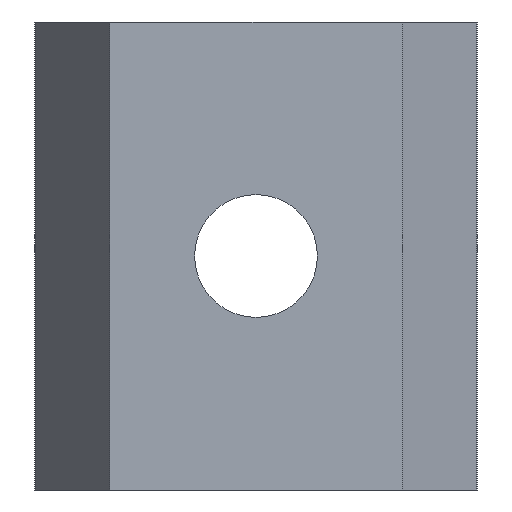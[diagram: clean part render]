
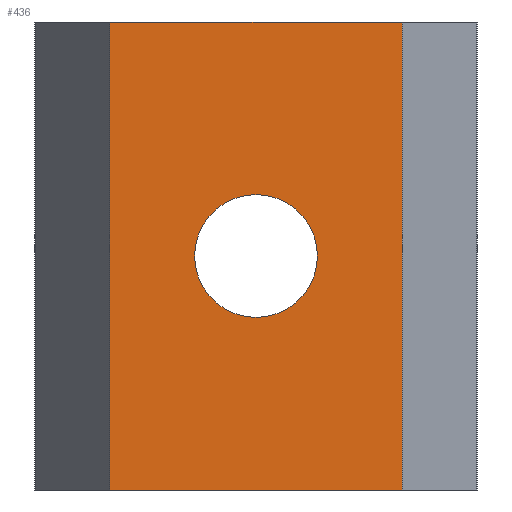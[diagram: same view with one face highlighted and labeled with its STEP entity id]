
A CAD part, front view. The second image highlights one B-rep face of the part: STEP entity #436.
In plain terms, the highlighted planar face has unit normal (0, -1, 0).
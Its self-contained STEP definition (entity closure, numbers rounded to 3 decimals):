
#14 = AXIS2_PLACEMENT_3D ( 'NONE', #452, #422, #614 ) ;
#19 = LINE ( 'NONE', #119, #266 ) ;
#20 = VECTOR ( 'NONE', #309, 1000. ) ;
#23 = AXIS2_PLACEMENT_3D ( 'NONE', #141, #138, #133 ) ;
#38 = LINE ( 'NONE', #176, #264 ) ;
#40 = VECTOR ( 'NONE', #303, 1000. ) ;
#48 = LINE ( 'NONE', #162, #20 ) ;
#78 = DIRECTION ( 'NONE',  ( 1., 0., 0. ) ) ;
#80 = CARTESIAN_POINT ( 'NONE',  ( -5., 0., 8. ) ) ;
#82 = DIRECTION ( 'NONE',  ( 0., 0., -1. ) ) ;
#88 = CARTESIAN_POINT ( 'NONE',  ( -5., 0., -8. ) ) ;
#107 = CARTESIAN_POINT ( 'NONE',  ( 0., 0., -2.1 ) ) ;
#119 = CARTESIAN_POINT ( 'NONE',  ( 5., 0., 8. ) ) ;
#128 = EDGE_CURVE ( 'NONE', #330, #346, #268, .T. ) ;
#130 = CARTESIAN_POINT ( 'NONE',  ( -5., 0., 8. ) ) ;
#131 = EDGE_CURVE ( 'NONE', #370, #374, #272, .T. ) ;
#133 = DIRECTION ( 'NONE',  ( 0., 0., 1. ) ) ;
#138 = DIRECTION ( 'NONE',  ( 0., 1., 0. ) ) ;
#140 = EDGE_CURVE ( 'NONE', #346, #412, #48, .T. ) ;
#141 = CARTESIAN_POINT ( 'NONE',  ( 0., 0., 0. ) ) ;
#142 = EDGE_CURVE ( 'NONE', #326, #412, #19, .T. ) ;
#149 = EDGE_CURVE ( 'NONE', #330, #326, #38, .T. ) ;
#151 = CARTESIAN_POINT ( 'NONE',  ( 0., 0., 2.1 ) ) ;
#152 = AXIS2_PLACEMENT_3D ( 'NONE', #521, #509, #508 ) ;
#162 = CARTESIAN_POINT ( 'NONE',  ( -5., 0., -8. ) ) ;
#164 = FACE_OUTER_BOUND ( 'NONE', #542, .T. ) ;
#173 = FACE_BOUND ( 'NONE', #369, .T. ) ;
#176 = CARTESIAN_POINT ( 'NONE',  ( -5., 0., 8. ) ) ;
#185 = EDGE_CURVE ( 'NONE', #374, #370, #244, .T. ) ;
#244 = CIRCLE ( 'NONE', #14, 2.1 ) ;
#264 = VECTOR ( 'NONE', #78, 1000. ) ;
#266 = VECTOR ( 'NONE', #82, 1000. ) ;
#268 = LINE ( 'NONE', #80, #40 ) ;
#272 = CIRCLE ( 'NONE', #23, 2.1 ) ;
#299 = CARTESIAN_POINT ( 'NONE',  ( 5., 0., -8. ) ) ;
#303 = DIRECTION ( 'NONE',  ( 0., 0., -1. ) ) ;
#309 = DIRECTION ( 'NONE',  ( 1., 0., 0. ) ) ;
#326 = VERTEX_POINT ( 'NONE', #539 ) ;
#330 = VERTEX_POINT ( 'NONE', #130 ) ;
#335 = ORIENTED_EDGE ( 'NONE', *, *, #142, .F. ) ;
#336 = ORIENTED_EDGE ( 'NONE', *, *, #185, .T. ) ;
#338 = ORIENTED_EDGE ( 'NONE', *, *, #149, .F. ) ;
#339 = ORIENTED_EDGE ( 'NONE', *, *, #128, .T. ) ;
#346 = VERTEX_POINT ( 'NONE', #88 ) ;
#353 = ORIENTED_EDGE ( 'NONE', *, *, #131, .T. ) ;
#361 = ORIENTED_EDGE ( 'NONE', *, *, #140, .T. ) ;
#369 = EDGE_LOOP ( 'NONE', ( #353, #336 ) ) ;
#370 = VERTEX_POINT ( 'NONE', #151 ) ;
#374 = VERTEX_POINT ( 'NONE', #107 ) ;
#412 = VERTEX_POINT ( 'NONE', #299 ) ;
#422 = DIRECTION ( 'NONE',  ( 0., 1., 0. ) ) ;
#436 = ADVANCED_FACE ( 'NONE', ( #173, #164 ), #520, .F. ) ;
#452 = CARTESIAN_POINT ( 'NONE',  ( 0., 0., 0. ) ) ;
#508 = DIRECTION ( 'NONE',  ( 0., 0., 1. ) ) ;
#509 = DIRECTION ( 'NONE',  ( 0., 1., 0. ) ) ;
#520 = PLANE ( 'NONE',  #152 ) ;
#521 = CARTESIAN_POINT ( 'NONE',  ( -5., 0., 8. ) ) ;
#539 = CARTESIAN_POINT ( 'NONE',  ( 5., 0., 8. ) ) ;
#542 = EDGE_LOOP ( 'NONE', ( #361, #335, #338, #339 ) ) ;
#614 = DIRECTION ( 'NONE',  ( 0., 0., 1. ) ) ;
